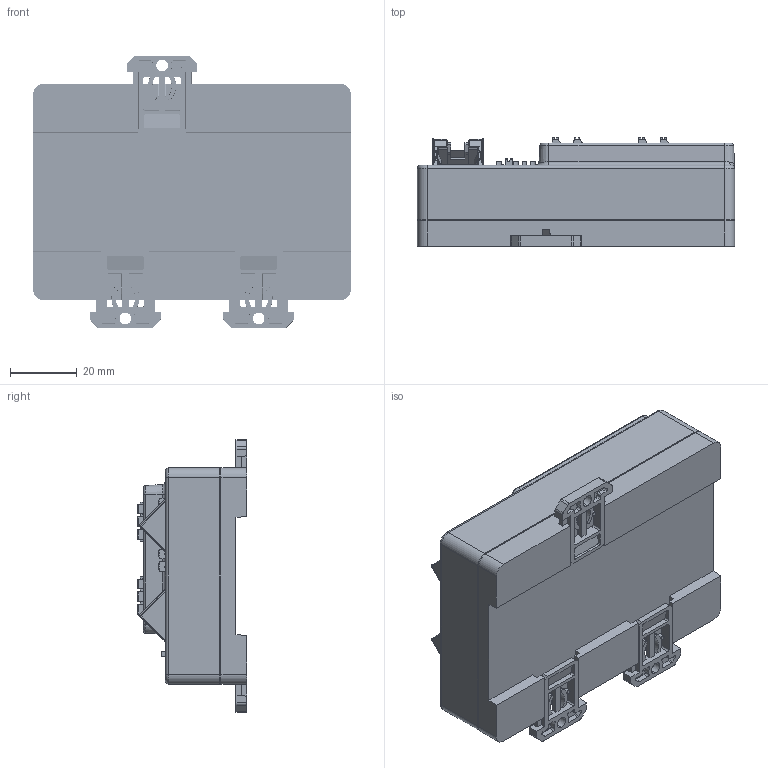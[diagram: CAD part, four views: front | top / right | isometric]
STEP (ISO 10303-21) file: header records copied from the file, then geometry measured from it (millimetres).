
FILE_DESCRIPTION((''),'2;1');
FILE_NAME('YH_16_2','2026-04-07T18:13:26',('Administrator'),(''),'CREO PARAMETRIC BY PTC INC, 2022073','CREO PARAMETRIC BY PTC INC, 2022073','');
FILE_SCHEMA(('CONFIG_CONTROL_DESIGN','SHAPE_APPEARANCE_LAYERS_GROUPS'));
Products named in the file (1): YH_16_2
Bounding box: 95.3 x 32.8 x 82 mm (x, y, z)
Volume: 71195.3 mm3; surface area: 88433.6 mm2
Topology: 1 solids, 1 shells, 8929 faces, 25736 edges, 16891 vertices
Faces by surface type: plane 6674, cylinder 1585, cone 208, bspline 200, torus 143, extrusion 95, sphere 24
Entity records: 324306 total; most frequent: CARTESIAN_POINT 89674, ORIENTED_EDGE 51360, DIRECTION 45205, EDGE_CURVE 25680, VECTOR 20551, LINE 20456, VERTEX_POINT 16875, AXIS2_PLACEMENT_3D 12327
